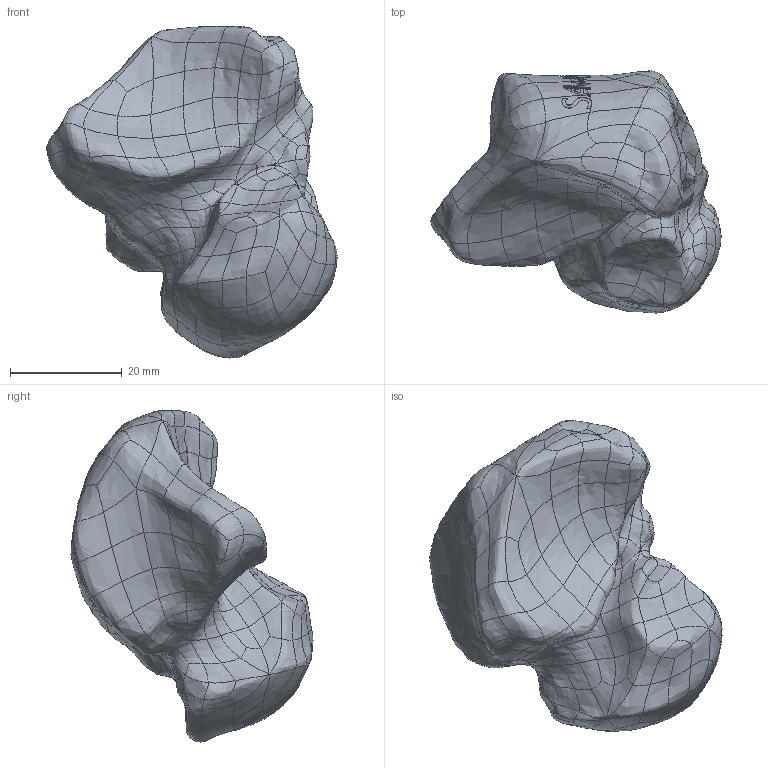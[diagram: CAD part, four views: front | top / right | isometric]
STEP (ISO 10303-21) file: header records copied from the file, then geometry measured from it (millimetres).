
FILE_DESCRIPTION (( 'STEP AP203' ), '1' );
FILE_NAME ('1124-2.STEP', '2025-06-04T19:32:52', ( '' ), ( '' ), 'SwSTEP 2.0', 'SolidWorks 2024', '' );
FILE_SCHEMA (( 'CONFIG_CONTROL_DESIGN' ));
Products named in the file (1): 1124-2
Bounding box: 52 x 43.37 x 59.49 mm (x, y, z)
Volume: 40387.2 mm3; surface area: 7631.3 mm2
Topology: 1 solids, 1 shells, 632 faces, 1445 edges, 821 vertices
Faces by surface type: bspline 631, plane 1
Entity records: 65634 total; most frequent: CARTESIAN_POINT 56406, ORIENTED_EDGE 2890, EDGE_CURVE 1445, B_SPLINE_CURVE_WITH_KNOTS 1445, VERTEX_POINT 821, EDGE_LOOP 638, ADVANCED_FACE 632, FACE_OUTER_BOUND 632
